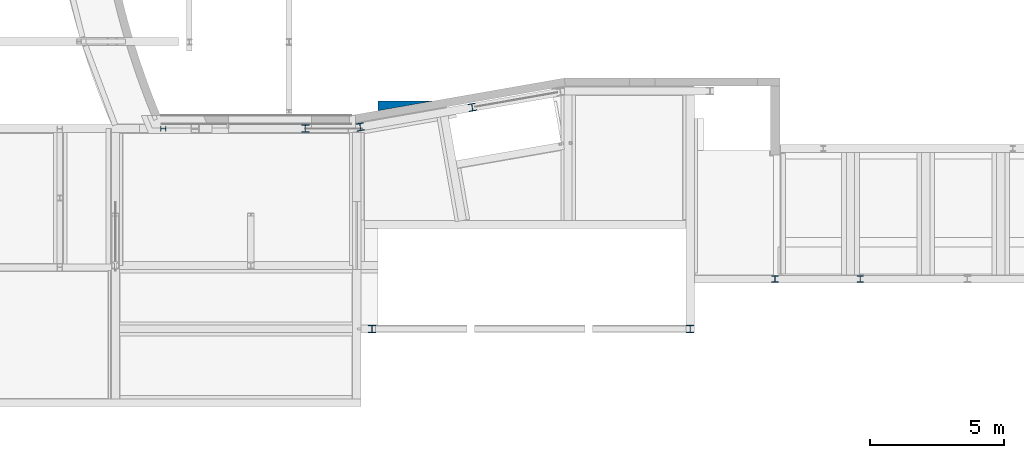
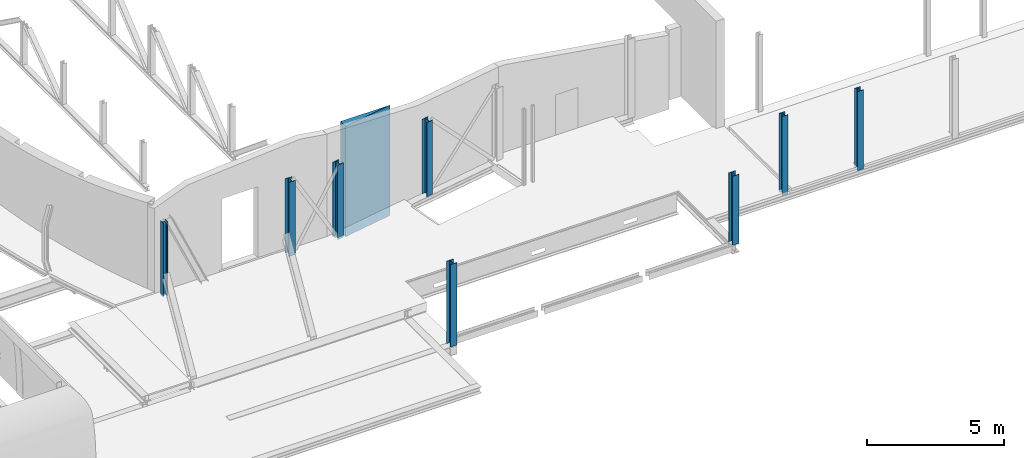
# One storey, part 3 of 38: 9 columns.
"""IFC2X3 building model written with IfcOpenShell, lengths in millimetres."""

from ifc_helpers import new_model, entity, si_unit, converted_unit, derived_unit, direction, frame, frame_2d, origin, place, context, subcontext, project, spatial, polyline, circle_curve, parameter, trimmed, segment, composite_curve, i_section, outline, extrude, source, transform, mapped, material, type_object, type_shapes, element, save


model = new_model("IFC2X3")

# Units and contexts
model_context = context("Model", 3, precision=0.01, world=origin(), true_north=direction((6.12303176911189e-17, 1.0)))
body_context = subcontext(model_context, "Body", "Model", "MODEL_VIEW")
ifc_project = project(units=[si_unit("LENGTHUNIT", "METRE", prefix="MILLI"), si_unit("AREAUNIT", "SQUARE_METRE", prefix="MILLI"), si_unit("VOLUMEUNIT", "CUBIC_METRE"), converted_unit("PLANEANGLEUNIT", "DEGREE", entity("IfcRatioMeasure", 0.0174532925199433), si_unit("PLANEANGLEUNIT", "RADIAN"), dimensions=[0, 0, 0, 0, 0, 0, 0]), si_unit("MASSUNIT", "GRAM", prefix="KILO"), derived_unit("MASSDENSITYUNIT", [(si_unit("MASSUNIT", "GRAM", prefix="KILO"), 1), (si_unit("LENGTHUNIT", "METRE"), -3)]), derived_unit("MOMENTOFINERTIAUNIT", [(si_unit("LENGTHUNIT", "METRE"), 4)]), si_unit("TIMEUNIT", "SECOND"), si_unit("FREQUENCYUNIT", "HERTZ"), si_unit("THERMODYNAMICTEMPERATUREUNIT", "DEGREE_CELSIUS"), derived_unit("THERMALTRANSMITTANCEUNIT", [(si_unit("MASSUNIT", "GRAM", prefix="KILO"), 1), (si_unit("THERMODYNAMICTEMPERATUREUNIT", "KELVIN"), -1), (si_unit("TIMEUNIT", "SECOND"), -3)]), derived_unit("VOLUMETRICFLOWRATEUNIT", [(si_unit("LENGTHUNIT", "METRE"), 3), (si_unit("TIMEUNIT", "SECOND"), -1)]), si_unit("ELECTRICCURRENTUNIT", "AMPERE"), si_unit("ELECTRICVOLTAGEUNIT", "VOLT"), si_unit("POWERUNIT", "WATT"), si_unit("FORCEUNIT", "NEWTON", prefix="KILO"), si_unit("ILLUMINANCEUNIT", "LUX"), si_unit("LUMINOUSFLUXUNIT", "LUMEN"), si_unit("LUMINOUSINTENSITYUNIT", "CANDELA"), derived_unit("USERDEFINED", [(si_unit("MASSUNIT", "GRAM", prefix="KILO"), -1), (si_unit("LENGTHUNIT", "METRE"), -2), (si_unit("TIMEUNIT", "SECOND"), 3), (si_unit("LUMINOUSFLUXUNIT", "LUMEN"), 1)]), derived_unit("LINEARVELOCITYUNIT", [(si_unit("LENGTHUNIT", "METRE"), 1), (si_unit("TIMEUNIT", "SECOND"), -1)]), si_unit("PRESSUREUNIT", "PASCAL"), derived_unit("USERDEFINED", [(si_unit("LENGTHUNIT", "METRE"), -2), (si_unit("MASSUNIT", "GRAM", prefix="KILO"), 1), (si_unit("TIMEUNIT", "SECOND"), -2)]), derived_unit("LINEARFORCEUNIT", [(si_unit("MASSUNIT", "GRAM", prefix="KILO"), 1), (si_unit("LENGTHUNIT", "METRE"), 1), (si_unit("TIMEUNIT", "SECOND"), -2), (si_unit("LENGTHUNIT", "METRE"), -1)]), derived_unit("PLANARFORCEUNIT", [(si_unit("MASSUNIT", "GRAM", prefix="KILO"), 1), (si_unit("LENGTHUNIT", "METRE"), 1), (si_unit("TIMEUNIT", "SECOND"), -2), (si_unit("LENGTHUNIT", "METRE"), -2)])], contexts=[model_context])

# Site, building, storey
site_placement = place(None, origin())
site = spatial("IfcSite", under=ifc_project, at=site_placement, Name="Theater aan de Parade", CompositionType="ELEMENT")
building_placement = place(site_placement, origin())
building = spatial("IfcBuilding", under=site, at=building_placement, Name="Theater aan de Parade", CompositionType="ELEMENT")
storey_placement = place(building_placement, frame((0.0, 0.0, 12480.0)))
storey = spatial("IfcBuildingStorey", under=building, at=storey_placement, Name="03 derde verdieping", CompositionType="ELEMENT", Elevation=12480.0)

# Columns
ifc_material_1 = material(Name="00_PBT_MAT_beton t.p.g.")
column_type_1 = type_object("IfcColumnType", Name="28_PBT_SC_beton_opdikking wand:opdikking wand grote zaal_bestaand", PredefinedType="COLUMN", material=ifc_material_1)
shared_shape_1 = source(origin(), body_context, "Body", "SweptSolid", [
    extrude(outline(polyline([(-121.683333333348, -695.33333333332), (243.366666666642, -695.33333333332), (-121.683333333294, 1390.66666666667), (-121.683333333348, -695.33333333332)])), frame((53365.3333333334, 21363.3666668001, 11910.0), z_axis=(0.0, 0.0, 1.0), x_axis=(0.0, -1.0, 0.0)), (0.0, 0.0, 1.0), 4930.00000000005),
])
type_shapes(column_type_1, [shared_shape_1])
column_1_placement = place(storey_placement, frame((0.0, 0.0, -12480.0)))
element("IfcColumn", 1, at=column_1_placement, inside=storey, type_object=column_type_1, material=ifc_material_1, Name="28_PBT_SC_beton_opdikking wand:opdikking wand grote zaal_bestaand", ObjectType="28_PBT_SC_beton_opdikking wand:opdikking wand grote zaal_bestaand", context=body_context, shape_type="MappedRepresentation", body=[
    mapped(shared_shape_1, transform((0.0, 0.0, 0.0), scale=1.0)),
])
ifc_material_2 = material(Name="00_PBT_MAT_staal_S355")
column_type_2 = type_object("IfcColumnType", Name="28_PBT_SC_staal_H-profiel:S355_HE280B", PredefinedType="COLUMN", material=ifc_material_2)
shared_shape_2 = source(origin(), body_context, "Body", "SweptSolid", [
    extrude(i_section(OverallWidth=279.999999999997, OverallDepth=279.999999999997, WebThickness=10.4999999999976, FlangeThickness=18.0000000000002, FilletRadius=24.0000000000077, at=frame_2d((0.0, 4.32009983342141e-12), x_axis=(0.0, 1.0))), frame((49946.4713059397, 20445.0, 12520.0), z_axis=(0.0, 0.0, 1.0), x_axis=(0.0, -1.0, 0.0)), (0.0, 0.0, 1.0), 3314.99999999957),
])
type_shapes(column_type_2, [shared_shape_2])
column_2_placement = place(storey_placement, frame((0.0, 0.0, -12480.0)))
element("IfcColumn", 2, at=column_2_placement, inside=storey, type_object=column_type_2, material=ifc_material_2, Name="28_PBT_SC_staal_H-profiel:S355_HE280B", ObjectType="28_PBT_SC_staal_H-profiel:S355_HE280B", context=body_context, shape_type="MappedRepresentation", body=[
    mapped(shared_shape_2, transform((0.0, 0.0, 0.0), scale=1.0)),
])
column_type_3 = type_object("IfcColumnType", Name="28_PBT_SC_staal_H-profiel:S355_HE280B", PredefinedType="COLUMN", material=ifc_material_2)
shared_shape_3 = source(origin(), body_context, "Body", "SweptSolid", [
    extrude(i_section(OverallWidth=279.999999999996, OverallDepth=280.000000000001, WebThickness=10.5000000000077, FlangeThickness=18.0, FilletRadius=24.0000000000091, at=frame_2d((7.38964445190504e-13, 4.2774672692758e-12), x_axis=(1.0, 0.0))), frame((56193.2454552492, 21244.1973974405, 12515.0), z_axis=(0.0, 0.0, 1.0), x_axis=(-0.985030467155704, -0.172380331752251, 0.0)), (0.0, 0.0, 1.0), 3319.99999999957),
])
type_shapes(column_type_3, [shared_shape_3])
column_3_placement = place(storey_placement, frame((0.0, 0.0, -12480.0)))
element("IfcColumn", 3, at=column_3_placement, inside=storey, type_object=column_type_3, material=ifc_material_2, Name="28_PBT_SC_staal_H-profiel:S355_HE280B", ObjectType="28_PBT_SC_staal_H-profiel:S355_HE280B", context=body_context, shape_type="MappedRepresentation", body=[
    mapped(shared_shape_3, transform((0.0, 0.0, 0.0), scale=1.0)),
])
column_type_4 = type_object("IfcColumnType", Name="28_PBT_SC_staal_H-profiel:S355_HE280B", PredefinedType="COLUMN", material=ifc_material_2)
shared_shape_4 = source(origin(), body_context, "Body", "SweptSolid", [
    extrude(i_section(OverallWidth=279.999999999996, OverallDepth=280.000000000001, WebThickness=10.5000000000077, FlangeThickness=18.0, FilletRadius=24.0000000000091, at=frame_2d((8.5265128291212e-12, -1.49213974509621e-12), x_axis=(1.0, 0.0))), frame((52005.6821149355, 20511.3738128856, 12515.0), z_axis=(0.0, 0.0, 1.0), x_axis=(-0.985030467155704, -0.172380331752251, 0.0)), (0.0, 0.0, 1.0), 3319.99999999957),
])
type_shapes(column_type_4, [shared_shape_4])
column_4_placement = place(storey_placement, frame((0.0, 0.0, -12480.0)))
element("IfcColumn", 4, at=column_4_placement, inside=storey, type_object=column_type_4, material=ifc_material_2, Name="28_PBT_SC_staal_H-profiel:S355_HE280B", ObjectType="28_PBT_SC_staal_H-profiel:S355_HE280B", context=body_context, shape_type="MappedRepresentation", body=[
    mapped(shared_shape_4, transform((0.0, 0.0, 0.0), scale=1.0)),
])
column_type_5 = type_object("IfcColumnType", Name="28_PBT_SC_staal_H-profiel:S355_HE240B", PredefinedType="COLUMN", material=ifc_material_2)
shared_shape_5 = source(origin(), body_context, "Body", "SweptSolid", [
    extrude(outline(composite_curve([segment(polyline([(103.0, -120.0), (120.0, -120.0)]), True, "CONTINUOUS"), segment(polyline([(120.0, -120.0), (120.0, 120.0)]), True, "CONTINUOUS"), segment(polyline([(120.0, 120.0), (103.0, 120.0)]), True, "CONTINUOUS"), segment(polyline([(103.0, 120.0), (103.0, 26.0)]), True, "CONTINUOUS"), segment(trimmed(circle_curve(frame_2d((82.0, 26.0), x_axis=(1.0, 0.0)), 21.0), [parameter(269.999999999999)], [parameter(0.0)], True, "PARAMETER"), False, "CONTINUOUS"), segment(polyline([(82.0, 5.0), (-82.0, 5.0)]), True, "CONTINUOUS"), segment(trimmed(circle_curve(frame_2d((-82.0, 26.0), x_axis=(0.0, -1.0)), 21.0), [parameter(270.0)], [parameter(0.0)], True, "PARAMETER"), False, "CONTINUOUS"), segment(polyline([(-103.0, 26.0), (-103.0, 120.0)]), True, "CONTINUOUS"), segment(polyline([(-103.0, 120.0), (-120.0, 120.0)]), True, "CONTINUOUS"), segment(polyline([(-120.0, 120.0), (-120.0, -120.0)]), True, "CONTINUOUS"), segment(polyline([(-120.0, -120.0), (-103.0, -120.0)]), True, "CONTINUOUS"), segment(polyline([(-103.0, -120.0), (-103.0, -26.0)]), True, "CONTINUOUS"), segment(trimmed(circle_curve(frame_2d((-82.0, -26.0), x_axis=(-1.0, 0.0)), 21.0), [parameter(270.0)], [parameter(0.0)], True, "PARAMETER"), False, "CONTINUOUS"), segment(polyline([(-82.0, -5.0), (82.0, -5.0)]), True, "CONTINUOUS"), segment(trimmed(circle_curve(frame_2d((82.0, -26.0), x_axis=(0.0, 1.0)), 21.0), [parameter(270.0)], [parameter(0.0)], True, "PARAMETER"), False, "CONTINUOUS"), segment(polyline([(103.0, -26.0), (103.0, -120.0)]), True, "CONTINUOUS")], self_intersect=False)), frame((0.0, 0.0, 12480.0), z_axis=(0.0, 0.0, 1.0), x_axis=(0.0, -1.0, 0.0)), (0.0, 0.0, 1.0), 3535.0),
])
type_shapes(column_type_5, [shared_shape_5])
for number, where, z_axis, x_axis in (
    (5, (70704.8589693, 14822.0, -12480.0), (0.0, 0.0, 1.0), (-1.0, 0.0, 0.0)),
    (6, (67516.0563479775, 14822.0, -12480.0), (0.0, 0.0, 1.0), (-1.0, 0.0, 0.0)),
):
    element("IfcColumn", number, at=place(storey_placement, frame(where, z_axis=z_axis, x_axis=x_axis)), inside=storey, type_object=column_type_5, material=ifc_material_2, Name="28_PBT_SC_staal_H-profiel:S355_HE240B", ObjectType="28_PBT_SC_staal_H-profiel:S355_HE240B", context=body_context, shape_type="MappedRepresentation", body=[
        mapped(shared_shape_5, transform((0.0, 0.0, 0.0), scale=1.0)),
    ])
column_type_6 = type_object("IfcColumnType", Name="28_PBT_SC_staal_H-profiel:S355_HE280B", PredefinedType="COLUMN", material=ifc_material_2)
shared_shape_6 = source(origin(), body_context, "Body", "SweptSolid", [
    extrude(outline(composite_curve([segment(polyline([(122.0, -140.0), (140.0, -140.0)]), True, "CONTINUOUS"), segment(polyline([(140.0, -140.0), (140.0, 140.0)]), True, "CONTINUOUS"), segment(polyline([(140.0, 140.0), (122.0, 140.0)]), True, "CONTINUOUS"), segment(polyline([(122.0, 140.0), (122.0, 29.2500000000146)]), True, "CONTINUOUS"), segment(trimmed(circle_curve(frame_2d((98.0, 29.2500000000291), x_axis=(1.0, 0.0)), 24.0000000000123), [parameter(270.000000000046)], [parameter(0.0)], True, "PARAMETER"), False, "CONTINUOUS"), segment(polyline([(98.0, 5.25000000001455), (-98.0, 5.25000000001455)]), True, "CONTINUOUS"), segment(trimmed(circle_curve(frame_2d((-98.0, 29.2500000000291), x_axis=(0.0, -1.0)), 24.0000000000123), [parameter(270.000000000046)], [parameter(0.0)], True, "PARAMETER"), False, "CONTINUOUS"), segment(polyline([(-122.0, 29.2500000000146), (-122.0, 140.0)]), True, "CONTINUOUS"), segment(polyline([(-122.0, 140.0), (-140.0, 140.0)]), True, "CONTINUOUS"), segment(polyline([(-140.0, 140.0), (-140.0, -140.0)]), True, "CONTINUOUS"), segment(polyline([(-140.0, -140.0), (-122.0, -140.0)]), True, "CONTINUOUS"), segment(polyline([(-122.0, -140.0), (-122.0, -29.2499999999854)]), True, "CONTINUOUS"), segment(trimmed(circle_curve(frame_2d((-98.0, -29.2499999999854), x_axis=(-1.0, 0.0)), 24.0000000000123), [parameter(270.000000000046)], [parameter(0.0)], True, "PARAMETER"), False, "CONTINUOUS"), segment(polyline([(-98.0, -5.24999999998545), (98.0, -5.24999999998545)]), True, "CONTINUOUS"), segment(trimmed(circle_curve(frame_2d((98.0, -29.2499999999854), x_axis=(0.0, 1.0)), 24.0000000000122), [parameter(270.000000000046)], [parameter(0.0)], True, "PARAMETER"), False, "CONTINUOUS"), segment(polyline([(122.0, -29.2499999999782), (122.0, -140.0)]), True, "CONTINUOUS")], self_intersect=False)), frame((64344.5520755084, 12955.0, 12530.0), z_axis=(0.0, 0.0, 1.0), x_axis=(0.0, -1.0, 0.0)), (0.0, 0.0, 1.0), 3075.0),
])
type_shapes(column_type_6, [shared_shape_6])
column_5_placement = place(storey_placement, frame((0.0, 0.0, -12480.0)))
element("IfcColumn", 7, at=column_5_placement, inside=storey, type_object=column_type_6, material=ifc_material_2, Name="28_PBT_SC_staal_H-profiel:S355_HE280B", ObjectType="28_PBT_SC_staal_H-profiel:S355_HE280B", context=body_context, shape_type="MappedRepresentation", body=[
    mapped(shared_shape_6, transform((0.0, 0.0, 0.0), scale=1.0)),
])
column_type_7 = type_object("IfcColumnType", Name="28_PBT_SC_staal_H-profiel:S355_HE200B", PredefinedType="COLUMN", material=ifc_material_2)
shared_shape_7 = source(origin(), body_context, "Body", "SweptSolid", [
    extrude(i_section(OverallWidth=199.999999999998, OverallDepth=200.000000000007, WebThickness=9.00000000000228, FlangeThickness=14.9999999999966, FilletRadius=17.9999999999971, at=frame_2d((-2.16715534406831e-12, 0.0), x_axis=(1.0, 0.0))), frame((44633.962893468, 20445.0, 12520.0), z_axis=(0.0, 0.0, 1.0), x_axis=(0.0, -1.0, 0.0)), (0.0, 0.0, 1.0), 3314.99999999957),
])
type_shapes(column_type_7, [shared_shape_7])
column_6_placement = place(storey_placement, frame((0.0, 0.0, -12480.0)))
element("IfcColumn", 8, at=column_6_placement, inside=storey, type_object=column_type_7, material=ifc_material_2, Name="28_PBT_SC_staal_H-profiel:S355_HE200B", ObjectType="28_PBT_SC_staal_H-profiel:S355_HE200B", context=body_context, shape_type="MappedRepresentation", body=[
    mapped(shared_shape_7, transform((0.0, 0.0, 0.0), scale=1.0)),
])
column_type_8 = type_object("IfcColumnType", Name="28_PBT_SC_staal_H-profiel:S355_HE280B", PredefinedType="COLUMN", material=ifc_material_2)
shared_shape_8 = source(origin(), body_context, "Body", "SweptSolid", [
    extrude(i_section(OverallWidth=280.0, OverallDepth=280.0, WebThickness=10.4999999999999, FlangeThickness=17.9999999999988, FilletRadius=23.9999999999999, at=frame_2d((-4.12114786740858e-13, 0.0), x_axis=(0.0, 1.0))), frame((0.0, 0.0, 12155.0), z_axis=(0.0, 0.0, 1.0), x_axis=(0.0, -1.0, 0.0)), (0.0, 0.0, 1.0), 3675.0),
])
type_shapes(column_type_8, [shared_shape_8])
column_7_placement = place(storey_placement, frame((52439.5687867, 12955.0, -12480.0), z_axis=(0.0, 0.0, 1.0), x_axis=(-1.0, 0.0, 0.0)))
element("IfcColumn", 9, at=column_7_placement, inside=storey, type_object=column_type_8, material=ifc_material_2, Name="28_PBT_SC_staal_H-profiel:S355_HE280B", ObjectType="28_PBT_SC_staal_H-profiel:S355_HE280B", context=body_context, shape_type="MappedRepresentation", body=[
    mapped(shared_shape_8, transform((0.0, 0.0, 0.0), scale=1.0)),
])

save(model, "model.ifc")
